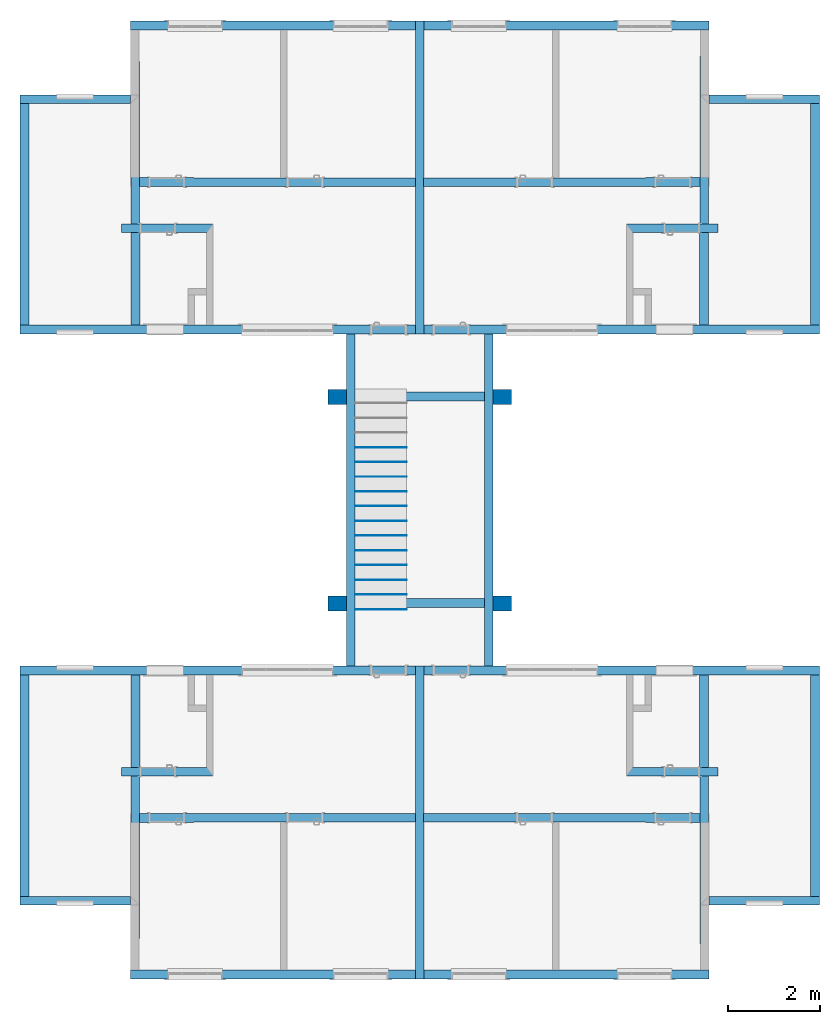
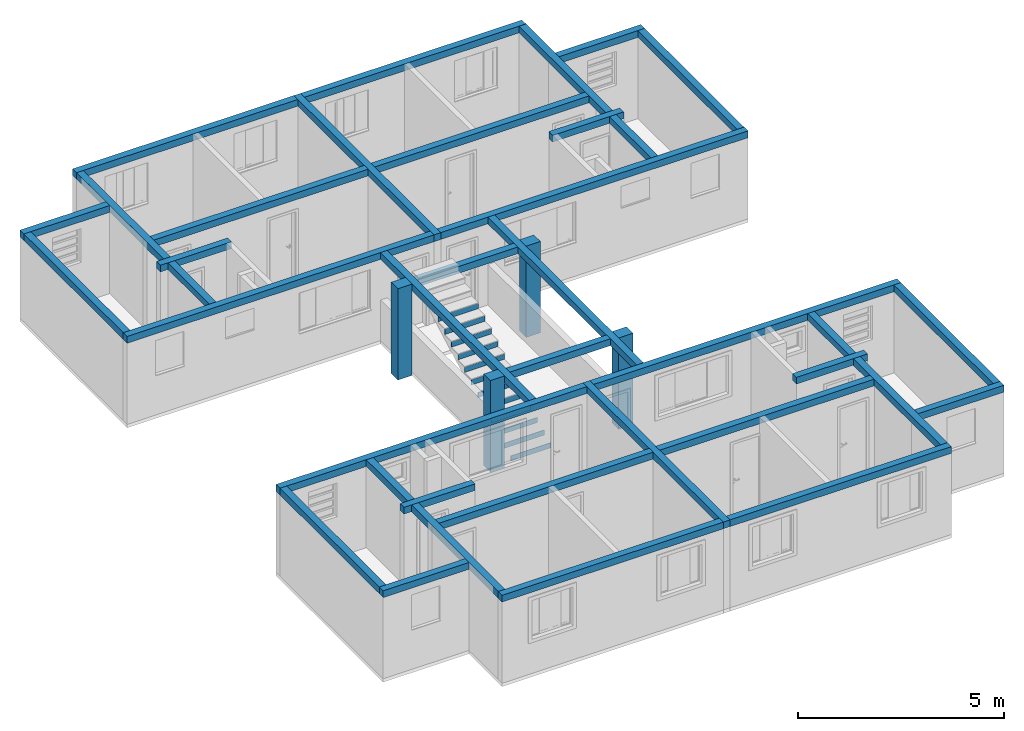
# One storey, part 1 of 43: 38 beams, 12 members, 4 columns, 1 element without a shape of its own.
"""IFC2X3 building model written with IfcOpenShell, lengths in millimetres."""

from ifc_helpers import new_model, entity, si_unit, converted_unit, derived_unit, money_unit, direction, frame, frame_2d, origin_with_axes, origin_2d_with_axis, place, context, subcontext, project, spatial, rectangle, extrude, faceted_brep, material, type_object, element, aggregate, save


model = new_model("IFC2X3")

# Units and contexts
model_context = context("Model", 3, precision=0.01, world=origin_with_axes(), true_north=direction((0.0, 1.0)))
body_context = subcontext(model_context, "Body", "Model", "MODEL_VIEW")
ifc_project = project(units=[si_unit("LENGTHUNIT", "METRE", prefix="MILLI"), si_unit("AREAUNIT", "SQUARE_METRE"), si_unit("VOLUMEUNIT", "CUBIC_METRE"), converted_unit("PLANEANGLEUNIT", "DEGREE", entity("IfcPlaneAngleMeasure", 0.0174532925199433), si_unit("PLANEANGLEUNIT", "RADIAN"), dimensions=[0, 0, 0, 0, 0, 0, 0]), money_unit("USD"), converted_unit("TIMEUNIT", "Year", entity("IfcTimeMeasure", 31557600.0), si_unit("TIMEUNIT", "SECOND"), dimensions=[0, 0, 1, 0, 0, 0, 0]), si_unit("MASSUNIT", "GRAM", prefix="KILO"), si_unit("THERMODYNAMICTEMPERATUREUNIT", "DEGREE_CELSIUS"), si_unit("LUMINOUSINTENSITYUNIT", "LUMEN"), si_unit("ENERGYUNIT", "JOULE", prefix="MEGA"), derived_unit("THERMALCONDUCTANCEUNIT", [(si_unit("POWERUNIT", "WATT"), 1), (si_unit("LENGTHUNIT", "METRE"), -1), (si_unit("THERMODYNAMICTEMPERATUREUNIT", "KELVIN"), -1)]), derived_unit("SPECIFICHEATCAPACITYUNIT", [(si_unit("ENERGYUNIT", "JOULE"), 1), (si_unit("MASSUNIT", "GRAM", prefix="KILO"), -1), (si_unit("THERMODYNAMICTEMPERATUREUNIT", "KELVIN"), -1)]), derived_unit("MASSDENSITYUNIT", [(si_unit("MASSUNIT", "GRAM", prefix="KILO"), 1), (si_unit("VOLUMEUNIT", "CUBIC_METRE"), -1)])], contexts=[model_context])

# Site, building, storey
site_placement = place(None, origin_with_axes())
site = spatial("IfcSite", under=ifc_project, at=site_placement, Name="Local", CompositionType="ELEMENT")
building_placement = place(site_placement, origin_with_axes())
building = spatial("IfcBuilding", under=site, at=building_placement, Name="Construção", CompositionType="ELEMENT")
storey_placement = place(building_placement, origin_with_axes())
storey = spatial("IfcBuildingStorey", under=building, at=storey_placement, Name="Pavimento Tipo", CompositionType="ELEMENT", Elevation=0.0)

# Columns
ifc_material_1 = material(Name="Concreto Armado - Estrutural")
column_type = type_object("IfcColumnType", Name="Concreto Armado - Estrutural 400 x 320", PredefinedType="COLUMN")
column_1_placement = place(storey_placement, frame((62002.43459861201, 4272.461520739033, -100.0000000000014), z_axis=(0.0, 0.0, 1.0), x_axis=(1.0, 0.0, 0.0)))
element("IfcColumn", 1, at=column_1_placement, inside=storey, type_object=column_type, material=ifc_material_1, Name="NúcleoP02", ObjectType="COLUMN", context=body_context, shape_type="SweptSolid", body=[
    extrude(rectangle(XDim=400.0, YDim=320.0, at=origin_2d_with_axis()), origin_with_axes(), (0.0, 0.0, 1.0), 2699.999999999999),
])
column_2_placement = place(storey_placement, frame((65592.43459861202, 4272.461520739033, -100.0000000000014), z_axis=(0.0, 0.0, 1.0), x_axis=(1.0, 0.0, 0.0)))
element("IfcColumn", 2, at=column_2_placement, inside=storey, type_object=column_type, material=ifc_material_1, Name="NúcleoP01", ObjectType="COLUMN", context=body_context, shape_type="SweptSolid", body=[
    extrude(rectangle(XDim=400.0, YDim=320.0, at=origin_2d_with_axis()), origin_with_axes(), (0.0, 0.0, 1.0), 2700.000000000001),
])
for number, where, z_axis, x_axis, name in (
    (3, (65592.43459861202, -207.5384792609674, -99.99999999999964), (0.0, 0.0, 1.0), (1.0, 0.0, 0.0), "NúcleoP03"),
    (4, (62002.43459861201, -207.5384792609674, -100.0000000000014), (0.0, 0.0, 1.0), (1.0, 0.0, 0.0), "NúcleoP04"),
):
    element("IfcColumn", number, at=place(storey_placement, frame(where, z_axis=z_axis, x_axis=x_axis)), inside=storey, type_object=column_type, material=ifc_material_1, Name=name, ObjectType="COLUMN", context=body_context, shape_type="SweptSolid", body=[
        extrude(rectangle(XDim=400.0, YDim=320.0, at=origin_2d_with_axis()), origin_with_axes(), (0.0, 0.0, 1.0), 2702.182591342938),
    ])

# Beams
ifc_material_2 = material(Name="Concreto - Estrutural")
beam_type = type_object("IfcBeamType", Name="Concreto - Estrutural 190 x 200", PredefinedType="BEAM")
beam_1_placement = place(storey_placement, frame((70079.50380859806, 10832.50352819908, 2600.0), z_axis=(0.0, 0.0, 1.0), x_axis=(-1.752164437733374e-05, -0.999999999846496, 0.0)))
element("IfcBeam", 5, at=beam_1_placement, inside=storey, type_object=beam_type, material=ifc_material_2, Name="Apartamento 1 - V03", ObjectType="BEAM", context=body_context, shape_type="SweptSolid", body=[
    extrude(rectangle(XDim=200.0, YDim=190.0, at=frame_2d((-100.0, 95.0), x_axis=(1.0, 0.0))), frame((0.0, 0.0, 0.0), z_axis=(0.0, 1.0, 0.0), x_axis=(0.0, 0.0, 1.0)), (0.0, 0.0, 1.0), 2397.457601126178),
])
beam_2_placement = place(storey_placement, frame((72477.39092510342, 5832.463033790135, 2600.0), z_axis=(0.0, 0.0, 1.0), x_axis=(-1.759361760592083e-07, 0.9999999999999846, 0.0)))
element("IfcBeam", 6, at=beam_2_placement, inside=storey, type_object=beam_type, material=ifc_material_2, Name="Apartamento 1 - V01", ObjectType="BEAM", context=body_context, shape_type="SweptSolid", body=[
    extrude(rectangle(XDim=200.0, YDim=190.0, at=frame_2d((-100.0, -95.0), x_axis=(1.0, 0.0))), frame((0.0, 0.0, 0.0), z_axis=(0.0, 1.0, 0.0), x_axis=(0.0, 0.0, 1.0)), (0.0, 0.0, 1.0), 8585.19122673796),
])
beam_3_placement = place(storey_placement, frame((63892.19973179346, 12245.36495309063, 2600.0), z_axis=(0.0, 0.0, 1.0), x_axis=(0.0, -1.0, 0.0)))
element("IfcBeam", 7, at=beam_3_placement, inside=storey, type_object=beam_type, material=ifc_material_2, Name="Apartamento 1 - V05", ObjectType="BEAM", context=body_context, shape_type="SweptSolid", body=[
    extrude(rectangle(XDim=200.0, YDim=190.0, at=frame_2d((-100.0, -95.0), x_axis=(1.0, 0.0))), frame((0.0, 0.0, 0.0), z_axis=(0.0, 1.0, 0.0), x_axis=(0.0, 0.0, 1.0)), (0.0, 0.0, 1.0), 6187.334418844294),
])
beam_4_placement = place(storey_placement, frame((69889.53415067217, 12245.36856874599, 2600.0), z_axis=(0.0, 0.0, 1.0), x_axis=(-0.9999973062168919, 0.002321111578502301, 0.0)))
element("IfcBeam", 8, at=beam_4_placement, inside=storey, type_object=beam_type, material=ifc_material_2, Name="Apartamento 1 - V04", ObjectType="BEAM", context=body_context, shape_type="SweptSolid", body=[
    extrude(rectangle(XDim=200.0, YDim=190.0, at=frame_2d((-100.0, -95.0), x_axis=(1.0, 0.0))), frame((0.0, 0.0, 0.0), z_axis=(0.0, 1.0, 0.0), x_axis=(0.0, 0.0, 1.0)), (0.0, 0.0, 1.0), 4212.918396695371),
])
beam_5_placement = place(storey_placement, frame((68286.96486497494, 8032.461520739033, 2600.0), z_axis=(0.0, 0.0, 1.0), x_axis=(0.0, -1.0, 0.0)))
element("IfcBeam", 9, at=beam_5_placement, inside=storey, type_object=beam_type, material=ifc_material_2, Name="Apartamento 1 - V08", ObjectType="BEAM", context=body_context, shape_type="SweptSolid", body=[
    extrude(rectangle(XDim=200.0, YDim=190.0, at=frame_2d((-100.0, 95.0), x_axis=(1.0, 0.0))), frame((0.0, 0.0, 0.0), z_axis=(0.0, 1.0, 0.0), x_axis=(0.0, 0.0, 1.0)), (0.0, 0.0, 1.0), 1990.000000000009),
])
beam_6_placement = place(storey_placement, frame((72476.95808024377, 10642.46152082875, 2600.0), z_axis=(0.0, 0.0, 1.0), x_axis=(-0.999999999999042, -1.384246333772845e-06, 0.0)))
element("IfcBeam", 10, at=beam_6_placement, inside=storey, type_object=beam_type, material=ifc_material_2, Name="Apartamento 1 - V02", ObjectType="BEAM", context=body_context, shape_type="SweptSolid", body=[
    extrude(rectangle(XDim=200.0, YDim=190.0, at=frame_2d((-100.0, 95.0), x_axis=(1.0, 0.0))), frame((0.0, 0.0, 0.0), z_axis=(0.0, 1.0, 0.0), x_axis=(0.0, 0.0, 1.0)), (0.0, 0.0, 1.0), 4810.000018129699),
])
beam_7_placement = place(storey_placement, frame((69874.64904613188, 7842.461520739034, 2600.0), z_axis=(0.0, 0.0, 1.0), x_axis=(-1.0, 0.0, 0.0)))
element("IfcBeam", 11, at=beam_7_placement, inside=storey, type_object=beam_type, material=ifc_material_2, Name="Apartamento 1 - V09", ObjectType="BEAM", context=body_context, shape_type="SweptSolid", body=[
    extrude(rectangle(XDim=200.0, YDim=190.0, at=frame_2d((-100.0, -95.0), x_axis=(1.0, 0.0))), frame((0.0, 0.0, 0.0), z_axis=(0.0, 1.0, 0.0), x_axis=(0.0, 0.0, 1.0)), (0.0, 0.0, 1.0), 2010.0),
])
beam_8_placement = place(storey_placement, frame((69888.17192411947, 8845.303429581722, 2600.0), z_axis=(0.0, 0.0, 1.0), x_axis=(-0.00032150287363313, 0.9999999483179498, 0.0)))
element("IfcBeam", 12, at=beam_8_placement, inside=storey, type_object=beam_type, material=ifc_material_2, Name="Apartamento 1 - V07", ObjectType="BEAM", context=body_context, shape_type="SweptSolid", body=[
    extrude(rectangle(XDim=200.0, YDim=190.0, at=frame_2d((-100.0, 95.0), x_axis=(1.0, 0.0))), frame((0.0, 0.0, 0.0), z_axis=(0.0, 1.0, 0.0), x_axis=(0.0, 0.0, 1.0)), (0.0, 0.0, 1.0), 6004.02848601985),
])
beam_9_placement = place(storey_placement, frame((63892.19973179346, 12435.36495309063, 2600.0), z_axis=(0.0, 0.0, 1.0), x_axis=(-1.0, 0.0, 0.0)))
element("IfcBeam", 13, at=beam_9_placement, inside=storey, type_object=beam_type, material=ifc_material_2, Name="Apartamentos 1 e 2 - V06", ObjectType="BEAM", context=body_context, shape_type="SweptSolid", body=[
    extrude(rectangle(XDim=200.0, YDim=190.0, at=frame_2d((-100.0, 95.0), x_axis=(1.0, 0.0))), frame((0.0, 0.0, 0.0), z_axis=(0.0, 1.0, 0.0), x_axis=(0.0, 0.0, 1.0)), (0.0, 0.0, 1.0), 6792.903429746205),
])
beam_10_placement = place(storey_placement, frame((57514.89565498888, 10832.50352819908, 2600.0), z_axis=(0.0, 0.0, 1.0), x_axis=(-1.752164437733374e-05, 0.999999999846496, 0.0)))
element("IfcBeam", 14, at=beam_10_placement, inside=storey, type_object=beam_type, material=ifc_material_2, Name="Apartamento 2 - V03", ObjectType="BEAM", context=body_context, shape_type="SweptSolid", body=[
    extrude(rectangle(XDim=200.0, YDim=190.0, at=frame_2d((-100.0, -95.0), x_axis=(1.0, 0.0))), frame((0.0, 0.0, 0.0), z_axis=(0.0, 1.0, 0.0), x_axis=(0.0, 0.0, 1.0)), (0.0, 0.0, 1.0), 2397.457601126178),
])
beam_11_placement = place(storey_placement, frame((63702.19973179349, 12245.36495309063, 2600.0), z_axis=(0.0, 0.0, 1.0), x_axis=(0.0, 1.0, 0.0)))
element("IfcBeam", 15, at=beam_11_placement, inside=storey, type_object=beam_type, material=ifc_material_2, Name="Apartamento 2 - V05", ObjectType="BEAM", context=body_context, shape_type="SweptSolid", body=[
    extrude(rectangle(XDim=200.0, YDim=190.0, at=frame_2d((-100.0, 95.0), x_axis=(1.0, 0.0))), frame((0.0, 0.0, 0.0), z_axis=(0.0, 1.0, 0.0), x_axis=(0.0, 0.0, 1.0)), (0.0, 0.0, 1.0), 6187.334418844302),
])
beam_12_placement = place(storey_placement, frame((55117.00853848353, 5832.463033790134, 2600.0), z_axis=(0.0, 0.0, 1.0), x_axis=(-1.759361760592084e-07, -0.9999999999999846, 0.0)))
element("IfcBeam", 16, at=beam_12_placement, inside=storey, type_object=beam_type, material=ifc_material_2, Name="Apartamento 2 - V01", ObjectType="BEAM", context=body_context, shape_type="SweptSolid", body=[
    extrude(rectangle(XDim=200.0, YDim=190.0, at=frame_2d((-100.0, 95.0), x_axis=(1.0, 0.0))), frame((0.0, 0.0, 0.0), z_axis=(0.0, 1.0, 0.0), x_axis=(0.0, 0.0, 1.0)), (0.0, 0.0, 1.0), 8585.191226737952),
])
beam_13_placement = place(storey_placement, frame((57704.86531291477, 12245.36856874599, 2600.0), z_axis=(0.0, 0.0, 1.0), x_axis=(-0.9999973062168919, -0.002321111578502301, 0.0)))
element("IfcBeam", 17, at=beam_13_placement, inside=storey, type_object=beam_type, material=ifc_material_2, Name="Apartamento 2 - V04", ObjectType="BEAM", context=body_context, shape_type="SweptSolid", body=[
    extrude(rectangle(XDim=200.0, YDim=190.0, at=frame_2d((-100.0, 95.0), x_axis=(1.0, 0.0))), frame((0.0, 0.0, 0.0), z_axis=(0.0, 1.0, 0.0), x_axis=(0.0, 0.0, 1.0)), (0.0, 0.0, 1.0), 4212.918396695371),
])
beam_14_placement = place(storey_placement, frame((55117.44138334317, 10642.46152082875, 2600.0), z_axis=(0.0, 0.0, 1.0), x_axis=(-0.999999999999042, 1.384246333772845e-06, 0.0)))
element("IfcBeam", 18, at=beam_14_placement, inside=storey, type_object=beam_type, material=ifc_material_2, Name="Apartamento 2 - V02", ObjectType="BEAM", context=body_context, shape_type="SweptSolid", body=[
    extrude(rectangle(XDim=200.0, YDim=190.0, at=frame_2d((-100.0, -95.0), x_axis=(1.0, 0.0))), frame((0.0, 0.0, 0.0), z_axis=(0.0, 1.0, 0.0), x_axis=(0.0, 0.0, 1.0)), (0.0, 0.0, 1.0), 4810.000018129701),
])
beam_15_placement = place(storey_placement, frame((57719.75041745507, 7842.461520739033, 2600.0), z_axis=(0.0, 0.0, 1.0), x_axis=(-1.0, 0.0, 0.0)))
element("IfcBeam", 19, at=beam_15_placement, inside=storey, type_object=beam_type, material=ifc_material_2, Name="Apartamento 2 - V09", ObjectType="BEAM", context=body_context, shape_type="SweptSolid", body=[
    extrude(rectangle(XDim=200.0, YDim=190.0, at=frame_2d((-100.0, 95.0), x_axis=(1.0, 0.0))), frame((0.0, 0.0, 0.0), z_axis=(0.0, 1.0, 0.0), x_axis=(0.0, 0.0, 1.0)), (0.0, 0.0, 1.0), 2010.0),
])
beam_16_placement = place(storey_placement, frame((57706.22753946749, 8845.30342958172, 2600.0), z_axis=(0.0, 0.0, 1.0), x_axis=(-0.0003215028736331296, -0.9999999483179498, 0.0)))
element("IfcBeam", 20, at=beam_16_placement, inside=storey, type_object=beam_type, material=ifc_material_2, Name="Apartamento 2 - V07", ObjectType="BEAM", context=body_context, shape_type="SweptSolid", body=[
    extrude(rectangle(XDim=200.0, YDim=190.0, at=frame_2d((-100.0, -95.0), x_axis=(1.0, 0.0))), frame((0.0, 0.0, 0.0), z_axis=(0.0, 1.0, 0.0), x_axis=(0.0, 0.0, 1.0)), (0.0, 0.0, 1.0), 6004.028486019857),
])
beam_17_placement = place(storey_placement, frame((72476.95808024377, -6567.538479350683, 2600.0), z_axis=(0.0, 0.0, 1.0), x_axis=(0.999999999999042, -1.384246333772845e-06, 0.0)))
element("IfcBeam", 21, at=beam_17_placement, inside=storey, type_object=beam_type, material=ifc_material_2, Name="Apartamento 4 - V02", ObjectType="BEAM", context=body_context, shape_type="SweptSolid", body=[
    extrude(rectangle(XDim=200.0, YDim=190.0, at=frame_2d((-100.0, -95.0), x_axis=(1.0, 0.0))), frame((0.0, 0.0, 0.0), z_axis=(0.0, 1.0, 0.0), x_axis=(0.0, 0.0, 1.0)), (0.0, 0.0, 1.0), 4810.000018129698),
])
beam_18_placement = place(storey_placement, frame((69874.64904613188, -3767.538479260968, 2600.0), z_axis=(0.0, 0.0, 1.0), x_axis=(1.0, 0.0, 0.0)))
element("IfcBeam", 22, at=beam_18_placement, inside=storey, type_object=beam_type, material=ifc_material_2, Name="Apartamento 4 - V09", ObjectType="BEAM", context=body_context, shape_type="SweptSolid", body=[
    extrude(rectangle(XDim=200.0, YDim=190.0, at=frame_2d((-100.0, 95.0), x_axis=(1.0, 0.0))), frame((0.0, 0.0, 0.0), z_axis=(0.0, 1.0, 0.0), x_axis=(0.0, 0.0, 1.0)), (0.0, 0.0, 1.0), 2010.0),
])
beam_19_placement = place(storey_placement, frame((68286.96486497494, -3957.538479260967, 2600.0), z_axis=(0.0, 0.0, 1.0), x_axis=(0.0, -1.0, 0.0)))
element("IfcBeam", 23, at=beam_19_placement, inside=storey, type_object=beam_type, material=ifc_material_2, Name="Apartamento 4 - V08", ObjectType="BEAM", context=body_context, shape_type="SweptSolid", body=[
    extrude(rectangle(XDim=200.0, YDim=190.0, at=frame_2d((-100.0, -95.0), x_axis=(1.0, 0.0))), frame((0.0, 0.0, 0.0), z_axis=(0.0, 1.0, 0.0), x_axis=(0.0, 0.0, 1.0)), (0.0, 0.0, 1.0), 1990.000000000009),
])
beam_20_placement = place(storey_placement, frame((69888.17192411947, -4770.380388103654, 2600.0), z_axis=(0.0, 0.0, 1.0), x_axis=(0.0003215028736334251, 0.9999999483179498, 0.0)))
element("IfcBeam", 24, at=beam_20_placement, inside=storey, type_object=beam_type, material=ifc_material_2, Name="Apartamento 4 - V07", ObjectType="BEAM", context=body_context, shape_type="SweptSolid", body=[
    extrude(rectangle(XDim=200.0, YDim=190.0, at=frame_2d((-100.0, -95.0), x_axis=(1.0, 0.0))), frame((0.0, 0.0, 0.0), z_axis=(0.0, 1.0, 0.0), x_axis=(0.0, 0.0, 1.0)), (0.0, 0.0, 1.0), 6004.028486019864),
])
beam_21_placement = place(storey_placement, frame((59307.434598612, 8032.461520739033, 2600.0), z_axis=(0.0, 0.0, 1.0), x_axis=(0.0, 1.0, 0.0)))
element("IfcBeam", 25, at=beam_21_placement, inside=storey, type_object=beam_type, material=ifc_material_2, Name="Apartamento 2 - V08", ObjectType="BEAM", context=body_context, shape_type="SweptSolid", body=[
    extrude(rectangle(XDim=200.0, YDim=190.0, at=frame_2d((-100.0, -95.0), x_axis=(1.0, 0.0))), frame((0.0, 0.0, 0.0), z_axis=(0.0, 1.0, 0.0), x_axis=(0.0, 0.0, 1.0)), (0.0, 0.0, 1.0), 1990.000000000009),
])
beam_22_placement = place(storey_placement, frame((57514.89565498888, -6757.580486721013, 2600.0), z_axis=(0.0, 0.0, 1.0), x_axis=(1.752164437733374e-05, 0.999999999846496, 0.0)))
element("IfcBeam", 26, at=beam_22_placement, inside=storey, type_object=beam_type, material=ifc_material_2, Name="Apartamento 3 - V03", ObjectType="BEAM", context=body_context, shape_type="SweptSolid", body=[
    extrude(rectangle(XDim=200.0, YDim=190.0, at=frame_2d((-100.0, 95.0), x_axis=(1.0, 0.0))), frame((0.0, 0.0, 0.0), z_axis=(0.0, 1.0, 0.0), x_axis=(0.0, 0.0, 1.0)), (0.0, 0.0, 1.0), 2397.457601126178),
])
beam_23_placement = place(storey_placement, frame((55117.00853848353, -1757.539992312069, 2600.0), z_axis=(0.0, 0.0, 1.0), x_axis=(1.759361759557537e-07, -0.9999999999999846, 0.0)))
element("IfcBeam", 27, at=beam_23_placement, inside=storey, type_object=beam_type, material=ifc_material_2, Name="Apartamento 3 - V01", ObjectType="BEAM", context=body_context, shape_type="SweptSolid", body=[
    extrude(rectangle(XDim=200.0, YDim=190.0, at=frame_2d((-100.0, -95.0), x_axis=(1.0, 0.0))), frame((0.0, 0.0, 0.0), z_axis=(0.0, 1.0, 0.0), x_axis=(0.0, 0.0, 1.0)), (0.0, 0.0, 1.0), 8585.191226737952),
])
beam_24_placement = place(storey_placement, frame((63702.19973179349, -8170.441911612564, 2600.0), z_axis=(0.0, 0.0, 1.0), x_axis=(0.0, 1.0, 0.0)))
element("IfcBeam", 28, at=beam_24_placement, inside=storey, type_object=beam_type, material=ifc_material_2, Name="Apartamento 3 - V05", ObjectType="BEAM", context=body_context, shape_type="SweptSolid", body=[
    extrude(rectangle(XDim=200.0, YDim=190.0, at=frame_2d((-100.0, -95.0), x_axis=(1.0, 0.0))), frame((0.0, 0.0, 0.0), z_axis=(0.0, 1.0, 0.0), x_axis=(0.0, 0.0, 1.0)), (0.0, 0.0, 1.0), 6187.334418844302),
])
beam_25_placement = place(storey_placement, frame((59307.434598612, -3957.538479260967, 2600.0), z_axis=(0.0, 0.0, 1.0), x_axis=(0.0, 1.0, 0.0)))
element("IfcBeam", 29, at=beam_25_placement, inside=storey, type_object=beam_type, material=ifc_material_2, Name="Apartamento 3 - V08", ObjectType="BEAM", context=body_context, shape_type="SweptSolid", body=[
    extrude(rectangle(XDim=200.0, YDim=190.0, at=frame_2d((-100.0, 95.0), x_axis=(1.0, 0.0))), frame((0.0, 0.0, 0.0), z_axis=(0.0, 1.0, 0.0), x_axis=(0.0, 0.0, 1.0)), (0.0, 0.0, 1.0), 1990.000000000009),
])
beam_26_placement = place(storey_placement, frame((57704.86531291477, -8170.445527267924, 2600.0), z_axis=(0.0, 0.0, 1.0), x_axis=(0.9999973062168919, -0.002321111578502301, 0.0)))
element("IfcBeam", 30, at=beam_26_placement, inside=storey, type_object=beam_type, material=ifc_material_2, Name="Apartamento 3 - V04", ObjectType="BEAM", context=body_context, shape_type="SweptSolid", body=[
    extrude(rectangle(XDim=200.0, YDim=190.0, at=frame_2d((-100.0, -95.0), x_axis=(1.0, 0.0))), frame((0.0, 0.0, 0.0), z_axis=(0.0, 1.0, 0.0), x_axis=(0.0, 0.0, 1.0)), (0.0, 0.0, 1.0), 4212.918396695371),
])
beam_27_placement = place(storey_placement, frame((55117.44138334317, -6567.538479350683, 2600.0), z_axis=(0.0, 0.0, 1.0), x_axis=(0.999999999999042, 1.384246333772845e-06, 0.0)))
element("IfcBeam", 31, at=beam_27_placement, inside=storey, type_object=beam_type, material=ifc_material_2, Name="Apartamento 3 - V02", ObjectType="BEAM", context=body_context, shape_type="SweptSolid", body=[
    extrude(rectangle(XDim=200.0, YDim=190.0, at=frame_2d((-100.0, 95.0), x_axis=(1.0, 0.0))), frame((0.0, 0.0, 0.0), z_axis=(0.0, 1.0, 0.0), x_axis=(0.0, 0.0, 1.0)), (0.0, 0.0, 1.0), 4810.000018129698),
])
beam_28_placement = place(storey_placement, frame((57719.75041745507, -3767.538479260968, 2600.0), z_axis=(0.0, 0.0, 1.0), x_axis=(1.0, 0.0, 0.0)))
element("IfcBeam", 32, at=beam_28_placement, inside=storey, type_object=beam_type, material=ifc_material_2, Name="Apartamento 3 - V09", ObjectType="BEAM", context=body_context, shape_type="SweptSolid", body=[
    extrude(rectangle(XDim=200.0, YDim=190.0, at=frame_2d((-100.0, -95.0), x_axis=(1.0, 0.0))), frame((0.0, 0.0, 0.0), z_axis=(0.0, 1.0, 0.0), x_axis=(0.0, 0.0, 1.0)), (0.0, 0.0, 1.0), 2010.0),
])
beam_29_placement = place(storey_placement, frame((57706.22753946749, -4770.380388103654, 2600.0), z_axis=(0.0, 0.0, 1.0), x_axis=(0.0003215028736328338, -0.9999999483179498, 0.0)))
element("IfcBeam", 33, at=beam_29_placement, inside=storey, type_object=beam_type, material=ifc_material_2, Name="Apartamento 3 - V07", ObjectType="BEAM", context=body_context, shape_type="SweptSolid", body=[
    extrude(rectangle(XDim=200.0, YDim=190.0, at=frame_2d((-100.0, 95.0), x_axis=(1.0, 0.0))), frame((0.0, 0.0, 0.0), z_axis=(0.0, 1.0, 0.0), x_axis=(0.0, 0.0, 1.0)), (0.0, 0.0, 1.0), 6004.028486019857),
])
beam_30_placement = place(storey_placement, frame((63702.19973179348, -8360.441911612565, 2600.0), z_axis=(0.0, 0.0, 1.0), x_axis=(1.0, 0.0, 0.0)))
element("IfcBeam", 34, at=beam_30_placement, inside=storey, type_object=beam_type, material=ifc_material_2, Name="Apartamentos 3 e 4 - V06", ObjectType="BEAM", context=body_context, shape_type="SweptSolid", body=[
    extrude(rectangle(XDim=200.0, YDim=190.0, at=frame_2d((-100.0, 95.0), x_axis=(1.0, 0.0))), frame((0.0, 0.0, 0.0), z_axis=(0.0, 1.0, 0.0), x_axis=(0.0, 0.0, 1.0)), (0.0, 0.0, 1.0), 6792.903429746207),
])
beam_31_placement = place(storey_placement, frame((72477.3909251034, -1757.539992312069, 2600.0), z_axis=(0.0, 0.0, 1.0), x_axis=(1.759361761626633e-07, 0.9999999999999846, 0.0)))
element("IfcBeam", 35, at=beam_31_placement, inside=storey, type_object=beam_type, material=ifc_material_2, Name="Apartamento 4 - V01", ObjectType="BEAM", context=body_context, shape_type="SweptSolid", body=[
    extrude(rectangle(XDim=200.0, YDim=190.0, at=frame_2d((-100.0, 95.0), x_axis=(1.0, 0.0))), frame((0.0, 0.0, 0.0), z_axis=(0.0, 1.0, 0.0), x_axis=(0.0, 0.0, 1.0)), (0.0, 0.0, 1.0), 8585.191226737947),
])
beam_32_placement = place(storey_placement, frame((70079.50380859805, -6757.580486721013, 2600.0), z_axis=(0.0, 0.0, 1.0), x_axis=(1.752164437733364e-05, -0.999999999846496, 0.0)))
element("IfcBeam", 36, at=beam_32_placement, inside=storey, type_object=beam_type, material=ifc_material_2, Name="Apartamento 4 - V03", ObjectType="BEAM", context=body_context, shape_type="SweptSolid", body=[
    extrude(rectangle(XDim=200.0, YDim=190.0, at=frame_2d((-100.0, -95.0), x_axis=(1.0, 0.0))), frame((0.0, 0.0, 0.0), z_axis=(0.0, 1.0, 0.0), x_axis=(0.0, 0.0, 1.0)), (0.0, 0.0, 1.0), 2397.457601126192),
])
beam_33_placement = place(storey_placement, frame((63892.19973179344, -8170.44191161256, 2600.0), z_axis=(0.0, 0.0, 1.0), x_axis=(0.0, -1.0, 0.0)))
element("IfcBeam", 37, at=beam_33_placement, inside=storey, type_object=beam_type, material=ifc_material_2, Name="Apartamento 4 - V05", ObjectType="BEAM", context=body_context, shape_type="SweptSolid", body=[
    extrude(rectangle(XDim=200.0, YDim=190.0, at=frame_2d((-100.0, 95.0), x_axis=(1.0, 0.0))), frame((0.0, 0.0, 0.0), z_axis=(0.0, 1.0, 0.0), x_axis=(0.0, 0.0, 1.0)), (0.0, 0.0, 1.0), 6187.334418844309),
])
beam_34_placement = place(storey_placement, frame((69889.53415067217, -8170.445527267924, 2600.0), z_axis=(0.0, 0.0, 1.0), x_axis=(0.9999973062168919, 0.002321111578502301, 0.0)))
element("IfcBeam", 38, at=beam_34_placement, inside=storey, type_object=beam_type, material=ifc_material_2, Name="Apartamento 4 - V04", ObjectType="BEAM", context=body_context, shape_type="SweptSolid", body=[
    extrude(rectangle(XDim=200.0, YDim=190.0, at=frame_2d((-100.0, 95.0), x_axis=(1.0, 0.0))), frame((0.0, 0.0, 0.0), z_axis=(0.0, 1.0, 0.0), x_axis=(0.0, 0.0, 1.0)), (0.0, 0.0, 1.0), 4212.918396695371),
])
for number, where, z_axis, x_axis in (
    (39, (62392.43459861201, -102.5384792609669, 2600.0), (0.0, 0.0, 1.0), (0.0, -1.0, 0.0)),
    (40, (62392.43459861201, 4377.461520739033, 2600.0), (0.0, 0.0, 1.0), (0.0, -1.0, 0.0)),
):
    element("IfcBeam", number, at=place(storey_placement, frame(where, z_axis=z_axis, x_axis=x_axis)), inside=storey, type_object=beam_type, material=ifc_material_2, Name="NúcleoV03", ObjectType="BEAM", context=body_context, shape_type="SweptSolid", body=[
        extrude(rectangle(XDim=200.0, YDim=190.0, at=frame_2d((-100.0, 95.0), x_axis=(1.0, 0.0))), frame((0.0, 0.0, 0.0), z_axis=(0.0, 1.0, 0.0), x_axis=(0.0, 0.0, 1.0)), (0.0, 0.0, 1.0), 2809.999999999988),
    ])
for number, where, z_axis, x_axis in (
    (41, (62202.434598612, 5642.461520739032, 2600.0), (0.0, 0.0, 1.0), (-1.0, 0.0, 0.0)),
    (42, (65202.434598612, 5642.461520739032, 2600.0), (0.0, 0.0, 1.0), (-1.0, 0.0, 0.0)),
):
    element("IfcBeam", number, at=place(storey_placement, frame(where, z_axis=z_axis, x_axis=x_axis)), inside=storey, type_object=beam_type, material=ifc_material_2, Name="NúcleoV03", ObjectType="BEAM", context=body_context, shape_type="SweptSolid", body=[
        extrude(rectangle(XDim=200.0, YDim=190.0, at=frame_2d((-100.0, -95.0), x_axis=(1.0, 0.0))), frame((0.0, 0.0, 0.0), z_axis=(0.0, 1.0, 0.0), x_axis=(0.0, 0.0, 1.0)), (0.0, 0.0, 1.0), 7210.0),
    ])

# Stair, members
stair_placement = place(storey_placement, frame((62392.434598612, -357.5384792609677, 0.0), z_axis=(0.0, 0.0, 1.0), x_axis=(1.0, 0.0, 0.0)))
stair = element("IfcStair", 43, at=stair_placement, inside=storey, Name="NúcleoEscada - 001", ShapeType="NOTDEFINED")
ifc_material_3 = material(Name="Madeira")
member_type = type_object("IfcMemberType", Name="IfcMember", PredefinedType="USERDEFINED")
member_1_placement = place(stair_placement, frame((560.0000000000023, 0.0, 155.0), z_axis=(0.0, 0.0, 1.0), x_axis=(1.0, 0.0, 0.0)))
member_1 = element("IfcMember", 44, at=member_1_placement, type_object=member_type, material=ifc_material_3, Name="NúcleoEspelho Esc. - 017", ObjectType="Stair Riser", context=body_context, shape_type="Brep", body=[
    faceted_brep([(560.0, 15.0, 0.0), (560.0, 25.0, 0.0), (-560.0, 25.0, 0.0), (-560.0, 15.0, 0.0), (560.0, 15.00000000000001, -155.0), (560.0, 25.00000000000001, -155.0), (-560.0, 25.00000000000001, -155.0), (-560.0, 15.00000000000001, -155.0)], [[[0, 1, 2, 3]], [[0, 4, 5, 1]], [[1, 5, 6, 2]], [[3, 2, 6, 7]], [[4, 0, 3, 7]], [[5, 4, 7, 6]]]),
])
member_2_placement = place(stair_placement, frame((560.0000000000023, 319.9999999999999, 335.0), z_axis=(0.0, 0.0, 1.0), x_axis=(1.0, 0.0, 0.0)))
member_2 = element("IfcMember", 45, at=member_2_placement, type_object=member_type, material=ifc_material_3, Name="NúcleoEspelho Esc. - 017", ObjectType="Stair Riser", context=body_context, shape_type="Brep", body=[
    faceted_brep([(560.0, 15.0, 0.0), (560.0, 25.0, 0.0), (-560.0, 25.0, 0.0), (-560.0, 15.0, 0.0), (560.0, 15.00000000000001, -155.0), (560.0, 25.00000000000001, -155.0), (-560.0, 25.00000000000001, -155.0), (-560.0, 15.00000000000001, -155.0)], [[[0, 1, 2, 3]], [[0, 4, 5, 1]], [[1, 5, 6, 2]], [[3, 2, 6, 7]], [[4, 0, 3, 7]], [[5, 4, 7, 6]]]),
])
member_3_placement = place(stair_placement, frame((560.0000000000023, 640.0, 515.0), z_axis=(0.0, 0.0, 1.0), x_axis=(1.0, 0.0, 0.0)))
member_3 = element("IfcMember", 46, at=member_3_placement, type_object=member_type, material=ifc_material_3, Name="NúcleoEspelho Esc. - 017", ObjectType="Stair Riser", context=body_context, shape_type="Brep", body=[
    faceted_brep([(560.0, 15.0, 0.0), (560.0, 25.0, 0.0), (-560.0, 25.0, 0.0), (-560.0, 15.0, 0.0), (560.0, 15.00000000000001, -155.0), (560.0, 25.00000000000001, -155.0), (-560.0, 25.00000000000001, -155.0), (-560.0, 15.00000000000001, -155.0)], [[[0, 1, 2, 3]], [[0, 4, 5, 1]], [[1, 5, 6, 2]], [[3, 2, 6, 7]], [[4, 0, 3, 7]], [[5, 4, 7, 6]]]),
])
member_4_placement = place(stair_placement, frame((560.0000000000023, 960.0, 695.0000000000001), z_axis=(0.0, 0.0, 1.0), x_axis=(1.0, 0.0, 0.0)))
member_4 = element("IfcMember", 47, at=member_4_placement, type_object=member_type, material=ifc_material_3, Name="NúcleoEspelho Esc. - 017", ObjectType="Stair Riser", context=body_context, shape_type="Brep", body=[
    faceted_brep([(560.0, 15.0, 0.0), (560.0, 25.0, 0.0), (-560.0, 25.0, 0.0), (-560.0, 15.0, 0.0), (560.0, 15.00000000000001, -155.0), (560.0, 25.00000000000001, -155.0), (-560.0, 25.00000000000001, -155.0), (-560.0, 15.00000000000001, -155.0)], [[[0, 1, 2, 3]], [[0, 4, 5, 1]], [[1, 5, 6, 2]], [[3, 2, 6, 7]], [[4, 0, 3, 7]], [[5, 4, 7, 6]]]),
])
member_5_placement = place(stair_placement, frame((560.0000000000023, 1600.0, 1055.0), z_axis=(0.0, 0.0, 1.0), x_axis=(1.0, 0.0, 0.0)))
member_5 = element("IfcMember", 48, at=member_5_placement, type_object=member_type, material=ifc_material_3, Name="NúcleoEspelho Esc. - 017", ObjectType="Stair Riser", context=body_context, shape_type="Brep", body=[
    faceted_brep([(560.0, 15.0, 0.0), (560.0, 25.0, 0.0), (-560.0, 25.0, 0.0), (-560.0, 15.0, 0.0), (560.0, 15.00000000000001, -155.0), (560.0, 25.00000000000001, -155.0), (-560.0, 25.00000000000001, -155.0), (-560.0, 15.00000000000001, -155.0)], [[[0, 1, 2, 3]], [[0, 4, 5, 1]], [[1, 5, 6, 2]], [[3, 2, 6, 7]], [[4, 0, 3, 7]], [[5, 4, 7, 6]]]),
])
member_6_placement = place(stair_placement, frame((560.0000000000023, 1280.0, 875.0000000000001), z_axis=(0.0, 0.0, 1.0), x_axis=(1.0, 0.0, 0.0)))
member_6 = element("IfcMember", 49, at=member_6_placement, type_object=member_type, material=ifc_material_3, Name="NúcleoEspelho Esc. - 017", ObjectType="Stair Riser", context=body_context, shape_type="Brep", body=[
    faceted_brep([(560.0, 15.0, 0.0), (560.0, 25.0, 0.0), (-560.0, 25.0, 0.0), (-560.0, 15.0, 0.0), (560.0, 15.00000000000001, -155.0), (560.0, 25.00000000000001, -155.0), (-560.0, 25.00000000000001, -155.0), (-560.0, 15.00000000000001, -155.0)], [[[0, 1, 2, 3]], [[0, 4, 5, 1]], [[1, 5, 6, 2]], [[3, 2, 6, 7]], [[4, 0, 3, 7]], [[5, 4, 7, 6]]]),
])
member_7_placement = place(stair_placement, frame((560.0000000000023, 1920.0, 1235.0), z_axis=(0.0, 0.0, 1.0), x_axis=(1.0, 0.0, 0.0)))
member_7 = element("IfcMember", 50, at=member_7_placement, type_object=member_type, material=ifc_material_3, Name="NúcleoEspelho Esc. - 017", ObjectType="Stair Riser", context=body_context, shape_type="Brep", body=[
    faceted_brep([(560.0, 15.0, 0.0), (560.0, 25.0, 0.0), (-560.0, 25.0, 0.0), (-560.0, 15.0, 0.0), (560.0, 15.00000000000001, -155.0), (560.0, 25.00000000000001, -155.0), (-560.0, 25.00000000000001, -155.0), (-560.0, 15.00000000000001, -155.0)], [[[0, 1, 2, 3]], [[0, 4, 5, 1]], [[1, 5, 6, 2]], [[3, 2, 6, 7]], [[4, 0, 3, 7]], [[5, 4, 7, 6]]]),
])
member_8_placement = place(stair_placement, frame((560.0000000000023, 2560.0, 1595.0), z_axis=(0.0, 0.0, 1.0), x_axis=(1.0, 0.0, 0.0)))
member_8 = element("IfcMember", 51, at=member_8_placement, type_object=member_type, material=ifc_material_3, Name="NúcleoEspelho Esc. - 017", ObjectType="Stair Riser", context=body_context, shape_type="Brep", body=[
    faceted_brep([(560.0, 15.0, 0.0), (560.0, 25.0, 0.0), (-560.0, 25.0, 0.0), (-560.0, 15.0, 0.0), (560.0, 15.00000000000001, -155.0), (560.0, 25.00000000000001, -155.0), (-560.0, 25.00000000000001, -155.0), (-560.0, 15.00000000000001, -155.0)], [[[0, 1, 2, 3]], [[0, 4, 5, 1]], [[1, 5, 6, 2]], [[3, 2, 6, 7]], [[4, 0, 3, 7]], [[5, 4, 7, 6]]]),
])
member_9_placement = place(stair_placement, frame((560.0000000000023, 2880.0, 1775.0), z_axis=(0.0, 0.0, 1.0), x_axis=(1.0, 0.0, 0.0)))
member_9 = element("IfcMember", 52, at=member_9_placement, type_object=member_type, material=ifc_material_3, Name="NúcleoEspelho Esc. - 017", ObjectType="Stair Riser", context=body_context, shape_type="Brep", body=[
    faceted_brep([(560.0, 15.0, 0.0), (560.0, 25.0, 0.0), (-560.0, 25.0, 0.0), (-560.0, 15.0, 0.0), (560.0, 15.00000000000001, -155.0), (560.0, 25.00000000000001, -155.0), (-560.0, 25.00000000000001, -155.0), (-560.0, 15.00000000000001, -155.0)], [[[0, 1, 2, 3]], [[0, 4, 5, 1]], [[1, 5, 6, 2]], [[3, 2, 6, 7]], [[4, 0, 3, 7]], [[5, 4, 7, 6]]]),
])
member_10_placement = place(stair_placement, frame((560.0000000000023, 2240.0, 1415.0), z_axis=(0.0, 0.0, 1.0), x_axis=(1.0, 0.0, 0.0)))
member_10 = element("IfcMember", 53, at=member_10_placement, type_object=member_type, material=ifc_material_3, Name="NúcleoEspelho Esc. - 017", ObjectType="Stair Riser", context=body_context, shape_type="Brep", body=[
    faceted_brep([(560.0, 15.0, 0.0), (560.0, 25.0, 0.0), (-560.0, 25.0, 0.0), (-560.0, 15.0, 0.0), (560.0, 15.00000000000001, -155.0), (560.0, 25.00000000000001, -155.0), (-560.0, 25.00000000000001, -155.0), (-560.0, 15.00000000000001, -155.0)], [[[0, 1, 2, 3]], [[0, 4, 5, 1]], [[1, 5, 6, 2]], [[3, 2, 6, 7]], [[4, 0, 3, 7]], [[5, 4, 7, 6]]]),
])
member_11_placement = place(stair_placement, frame((560.0000000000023, 3200.0, 1955.0), z_axis=(0.0, 0.0, 1.0), x_axis=(1.0, 0.0, 0.0)))
member_11 = element("IfcMember", 54, at=member_11_placement, type_object=member_type, material=ifc_material_3, Name="NúcleoEspelho Esc. - 017", ObjectType="Stair Riser", context=body_context, shape_type="Brep", body=[
    faceted_brep([(560.0, 15.0, 0.0), (560.0, 25.0, 0.0), (-560.0, 25.0, 0.0), (-560.0, 15.0, 0.0), (560.0, 15.00000000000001, -155.0), (560.0, 25.00000000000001, -155.0), (-560.0, 25.00000000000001, -155.0), (-560.0, 15.00000000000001, -155.0)], [[[0, 1, 2, 3]], [[0, 4, 5, 1]], [[1, 5, 6, 2]], [[3, 2, 6, 7]], [[4, 0, 3, 7]], [[5, 4, 7, 6]]]),
])
member_12_placement = place(stair_placement, frame((560.0000000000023, 3520.0, 2135.0), z_axis=(0.0, 0.0, 1.0), x_axis=(1.0, 0.0, 0.0)))
member_12 = element("IfcMember", 55, at=member_12_placement, type_object=member_type, material=ifc_material_3, Name="NúcleoEspelho Esc. - 017", ObjectType="Stair Riser", context=body_context, shape_type="Brep", body=[
    faceted_brep([(560.0, 15.0, 0.0), (560.0, 25.0, 0.0), (-560.0, 25.0, 0.0), (-560.0, 15.0, 0.0), (560.0, 15.00000000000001, -155.0), (560.0, 25.00000000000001, -155.0), (-560.0, 25.00000000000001, -155.0), (-560.0, 15.00000000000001, -155.0)], [[[0, 1, 2, 3]], [[0, 4, 5, 1]], [[1, 5, 6, 2]], [[3, 2, 6, 7]], [[4, 0, 3, 7]], [[5, 4, 7, 6]]]),
])
aggregate(stair, [member_1, member_2, member_3, member_4, member_5, member_6, member_7, member_8, member_9, member_10, member_11, member_12])

save(model, "model.ifc")
